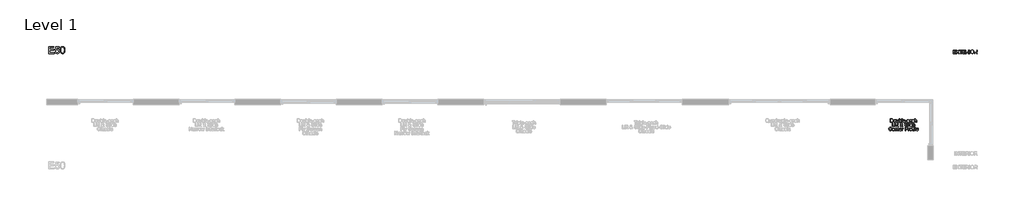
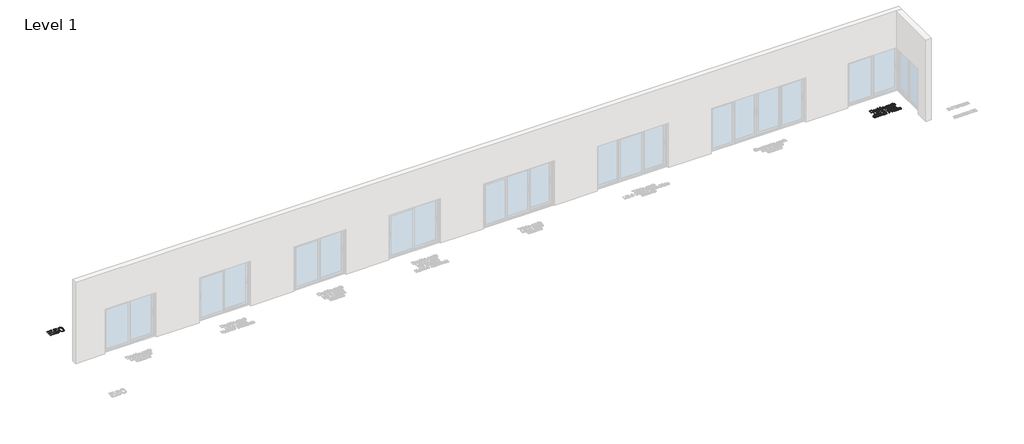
# One storey, part 17 of 17: 3 proxies.
"""IFC4 building model written with IfcOpenShell, lengths in millimetres."""

from ifc_helpers import new_model, si_unit, origin, origin_with_axes, place, context, project, spatial, polyline, outline, extrude, element, save

model = new_model("IFC4")

# Units and contexts
model_context = context("Model", 3, world=origin())
ifc_project = project(units=[si_unit("LENGTHUNIT", "METRE", prefix="MILLI")], contexts=[model_context])

# Site, building, storey
site = spatial("IfcSite", under=ifc_project)
building = spatial("IfcBuilding", under=site)
storey = spatial("IfcBuildingStorey", under=building, Name="Level 1", Elevation=0.0)

# Proxies
placement = place(None, origin())
element("IfcBuildingElementProxy", 1, Name="150mm Arial", ObjectType="150mm Arial", at=placement, inside=storey, context=model_context, shape_type="SweptSolid", body=[
    extrude(outline(polyline([(31115.5972472, 2081.2868462), (31115.5972472, 2231.9713114), (31223.9017066, 2231.9713114), (31223.9017066, 2213.1357532), (31134.4328053, 2213.1357532), (31134.4328053, 2168.4013026), (31219.192817, 2168.4013026), (31219.192817, 2149.5657445), (31134.4328053, 2149.5657445), (31134.4328053, 2100.1224043), (31226.2561513, 2100.1224043), (31226.2561513, 2081.2868462), (31115.5972472, 2081.2868462)])), origin_with_axes(), (0.0, 0.0, 1.0), 10.0),
    extrude(outline(polyline([(31238.0283752, 2081.2868462), (31296.1169422, 2163.3981075), (31247.4461543, 2231.9713114), (31270.0341088, 2231.9713114), (31297.4413174, 2193.3804901), (31306.6751555, 2178.3341165), (31317.4908861, 2193.6380075), (31344.6037892, 2231.9713114), (31367.5228375, 2231.9713114), (31318.8520495, 2163.1773783), (31376.9406166, 2081.2868462), (31354.3526621, 2081.2868462), (31315.6514762, 2135.8805342), (31307.5948605, 2147.2112997), (31298.7289044, 2134.7768883), (31260.9474235, 2081.2868462), (31238.0283752, 2081.2868462)])), origin_with_axes(), (0.0, 0.0, 1.0), 10.0),
    extrude(outline(polyline([(31433.447291, 2081.2868462), (31433.447291, 2213.1357532), (31384.0039509, 2213.1357532), (31384.0039509, 2231.9713114), (31501.7261893, 2231.9713114), (31501.7261893, 2213.1357532), (31452.2828492, 2213.1357532), (31452.2828492, 2081.2868462), (31433.447291, 2081.2868462)])), origin_with_axes(), (0.0, 0.0, 1.0), 10.0),
    extrude(outline(polyline([(31522.9161922, 2081.2868462), (31522.9161922, 2231.9713114), (31631.2206516, 2231.9713114), (31631.2206516, 2213.1357532), (31541.7517504, 2213.1357532), (31541.7517504, 2168.4013026), (31626.5117621, 2168.4013026), (31626.5117621, 2149.5657445), (31541.7517504, 2149.5657445), (31541.7517504, 2100.1224043), (31633.5750964, 2100.1224043), (31633.5750964, 2081.2868462), (31522.9161922, 2081.2868462)])), origin_with_axes(), (0.0, 0.0, 1.0), 10.0),
    extrude(outline(polyline([(31661.8284336, 2081.2868462), (31661.8284336, 2231.9713114), (31726.7596058, 2231.9713114), (31756.9075353, 2227.9062153), (31766.1873586, 2222.2776208), (31773.3886487, 2213.5220293), (31778.0101662, 2202.6649119), (31779.5506721, 2190.7317397), (31776.9984907, 2175.8877012), (31769.3419467, 2163.5820485), (31756.3511138, 2154.5597425), (31737.7960656, 2149.5657445), (31748.5014317, 2141.5091288), (31763.7685345, 2122.1217476), (31788.8948748, 2081.2868462), (31767.005896, 2081.2868462), (31747.3977857, 2112.5200275), (31733.2343289, 2133.1949957), (31723.2831209, 2142.9622626), (31714.3251943, 2146.5491121), (31703.3990991, 2147.2112997), (31680.6639918, 2147.2112997), (31680.6639918, 2081.2868462), (31661.8284336, 2081.2868462)]), holes=[polyline([(31680.6639918, 2166.0468578), (31722.8232684, 2166.0468578), (31744.325971, 2168.7140023), (31756.5396533, 2177.2488646), (31760.7151139, 2190.0327639), (31758.7239526, 2199.2206168), (31752.7504687, 2206.6242419), (31742.4727655, 2211.5078754), (31727.5689462, 2213.1357532), (31680.6639918, 2213.1357532), (31680.6639918, 2166.0468578)])]), origin_with_axes(), (0.0, 0.0, 1.0), 10.0),
    extrude(outline(polyline([(31814.8673436, 2081.2868462), (31814.8673436, 2231.9713114), (31833.7029018, 2231.9713114), (31833.7029018, 2081.2868462), (31814.8673436, 2081.2868462)])), origin_with_axes(), (0.0, 0.0, 1.0), 10.0),
    extrude(outline(polyline([(31864.3106838, 2154.642516), (31869.332273, 2187.9634277), (31875.6092595, 2201.5819593), (31884.3970407, 2213.1725414), (31907.3988625, 2229.0374525), (31936.2316138, 2234.3257562), (31955.996074, 2231.8425527), (31973.7187891, 2224.3929423), (31988.4340689, 2212.5011568), (31999.1762232, 2196.691428), (32005.7429168, 2177.7271112), (32007.9318147, 2156.3715614), (32005.6279537, 2134.730903), (31998.7163707, 2115.4998717), (31987.5787433, 2099.6625518), (31972.5967491, 2088.2030277), (31955.0257853, 2081.250058), (31936.1212492, 2078.9324014), (31916.0532864, 2081.4937798), (31898.2294037, 2089.177915), (31883.5509121, 2101.2904296), (31872.9191225, 2117.1369466), (31866.4627934, 2135.370098), (31864.3106838, 2154.642516)]), holes=[polyline([(31883.1462419, 2154.458575), (31886.9124339, 2130.8865362), (31898.2110096, 2112.9246977), (31915.1933622, 2101.5571441), (31936.0108846, 2097.7679595), (31957.1319097, 2101.5939323), (31974.1418534, 2113.0718505), (31985.3576558, 2131.5855119), (31989.0962565, 2156.5187142), (31987.4959699, 2173.1929656), (31982.6951098, 2187.6047428), (31974.8178366, 2199.3907622), (31963.9883104, 2208.1877404), (31950.923901, 2213.6645836), (31936.3419784, 2215.490198), (31916.0808775, 2211.9723264), (31898.8548031, 2201.4187117), (31887.0733822, 2182.6429344), (31883.1462419, 2154.458575)])]), origin_with_axes(), (0.0, 0.0, 1.0), 10.0),
    extrude(outline(polyline([(32033.8307072, 2081.2868462), (32033.8307072, 2231.9713114), (32098.7618793, 2231.9713114), (32128.9098088, 2227.9062153), (32138.1896321, 2222.2776208), (32145.3909222, 2213.5220293), (32150.0124398, 2202.6649119), (32151.5529456, 2190.7317397), (32149.0007643, 2175.8877012), (32141.3442202, 2163.5820485), (32128.3533873, 2154.5597425), (32109.7983392, 2149.5657445), (32120.5037052, 2141.5091288), (32135.770808, 2122.1217476), (32160.8971483, 2081.2868462), (32139.0081696, 2081.2868462), (32119.4000592, 2112.5200275), (32105.2366024, 2133.1949957), (32095.2853944, 2142.9622626), (32086.3274679, 2146.5491121), (32075.4013726, 2147.2112997), (32052.6662653, 2147.2112997), (32052.6662653, 2081.2868462), (32033.8307072, 2081.2868462)]), holes=[polyline([(32052.6662653, 2166.0468578), (32094.825542, 2166.0468578), (32116.3282446, 2168.7140023), (32128.5419268, 2177.2488646), (32132.7173875, 2190.0327639), (32130.7262262, 2199.2206168), (32124.7527423, 2206.6242419), (32114.475039, 2211.5078754), (32099.5712197, 2213.1357532), (32052.6662653, 2213.1357532), (32052.6662653, 2166.0468578)])]), origin_with_axes(), (0.0, 0.0, 1.0), 10.0),
])
element("IfcBuildingElementProxy", 2, Name="150mm Arial", ObjectType="150mm Arial", at=placement, inside=storey, context=model_context, shape_type="SweptSolid", body=[
    extrude(outline(polyline([(28388.4817855, -897.6627533), (28388.4817855, -746.9782881), (28440.4635114, -746.9782881), (28467.3556853, -749.1487919), (28489.5021814, -759.9277343), (28499.9224389, -771.4056526), (28507.3444582, -785.679474), (28511.7866333, -802.4732871), (28513.2673583, -821.5111803), (28509.2574445, -851.9166272), (28498.9567487, -873.8607883), (28485.1979621, -887.5276044), (28467.1901384, -895.0875794), (28442.965109, -897.6627533), (28388.4817855, -897.6627533)]), holes=[polyline([(28407.3173437, -878.8271952), (28440.6474524, -878.8271952), (28464.8908759, -876.1048684), (28478.8703917, -868.4161347), (28490.3299159, -849.7093353), (28494.4318001, -821.2168747), (28492.4222447, -800.6890594), (28486.3935785, -785.5323212), (28477.4862357, -775.1212607), (28466.8406505, -768.8304786), (28440.1324176, -765.8138463), (28407.3173437, -765.8138463), (28407.3173437, -878.8271952)])]), origin_with_axes(), (0.0, 0.0, 1.0), 10.0),
    extrude(outline(polyline([(28532.1029164, -842.3333013), (28536.1772095, -815.6526596), (28548.4000888, -796.8998749), (28563.5016447, -787.712022), (28581.5830448, -784.6494044), (28601.3704976, -788.3788081), (28617.1756278, -799.5670193), (28627.5361045, -817.3311212), (28630.9895967, -840.7881969), (28629.4628865, -859.8168931), (28624.8827556, -874.3022466), (28617.3825614, -885.150167), (28607.0956612, -893.2665635), (28594.8773804, -898.3295395), (28581.5830448, -900.0171981), (28561.5564687, -896.30159), (28545.7697326, -885.1547655), (28535.5196205, -867.0181831), (28532.1029164, -842.3333013)]), holes=[polyline([(28550.9384746, -842.2965131), (28553.1181754, -859.343245), (28559.6572779, -871.4879494), (28569.4981212, -878.7582173), (28581.5830448, -881.18164), (28593.612786, -878.7444217), (28603.4352353, -871.4327671), (28609.9743378, -859.1271143), (28612.1540386, -841.7079019), (28609.9605422, -825.1578106), (28603.380053, -813.1786531), (28593.5438082, -805.9083852), (28581.5830448, -803.4849626), (28569.4981212, -805.8991882), (28559.6572779, -813.141865), (28553.1181754, -825.2589782), (28550.9384746, -842.2965131)])]), origin_with_axes(), (0.0, 0.0, 1.0), 10.0),
    extrude(outline(polyline([(28722.8129427, -897.6627533), (28722.8129427, -878.6432542), (28708.0608747, -894.6737121), (28688.8206464, -900.0171981), (28671.1071283, -896.2648018), (28658.8934461, -886.8470227), (28653.2832457, -872.9778715), (28652.1795997, -855.4666885), (28652.1795997, -787.0038492), (28671.0151578, -787.0038492), (28671.0151578, -846.6007324), (28672.155592, -865.8041726), (28679.6052024, -877.0797557), (28693.6399005, -881.18164), (28709.3668558, -876.9877852), (28719.7595222, -865.5650493), (28722.8129427, -844.5773814), (28722.8129427, -787.0038492), (28741.6485009, -787.0038492), (28741.6485009, -897.6627533), (28722.8129427, -897.6627533)])), origin_with_axes(), (0.0, 0.0, 1.0), 10.0),
    extrude(outline(polyline([(28786.3829515, -897.6627533), (28767.5473934, -897.6627533), (28767.5473934, -746.9782881), (28786.3829515, -746.9782881), (28786.3829515, -802.8595632), (28799.571521, -789.2019441), (28815.9606639, -784.6494044), (28834.8330103, -788.7512887), (28849.4747137, -800.2843892), (28858.4694285, -818.2186365), (28861.7251841, -840.6778323), (28858.3544653, -865.8225667), (28848.242309, -884.5293661), (28833.402869, -896.1452401), (28815.8502993, -900.0171981), (28799.1024715, -895.0232), (28786.3829515, -880.0412058), (28786.3829515, -897.6627533)]), holes=[polyline([(28786.3829515, -841.5607491), (28787.6705385, -857.2693103), (28791.5332994, -867.9010999), (28801.401734, -877.861505), (28814.2316185, -881.18164), (28825.1025315, -878.7352247), (28834.3915519, -871.3959789), (28840.7651074, -859.2098878), (28842.889626, -842.2229367), (28840.8524794, -824.9876652), (28834.7410398, -812.9395299), (28825.7417265, -805.8486044), (28815.0409589, -803.4849626), (28804.170046, -805.9313778), (28794.8810256, -813.2706236), (28788.50747, -825.2359855), (28786.3829515, -841.5607491)])]), origin_with_axes(), (0.0, 0.0, 1.0), 10.0),
    extrude(outline(polyline([(28882.915187, -897.6627533), (28882.915187, -746.9782881), (28901.7507452, -746.9782881), (28901.7507452, -897.6627533), (28882.915187, -897.6627533)])), origin_with_axes(), (0.0, 0.0, 1.0), 10.0),
    extrude(outline(polyline([(29007.4800306, -864.7005266), (29025.9477068, -867.0549713), (29019.2936412, -880.9701078), (29008.6756471, -891.3719712), (28994.3328478, -897.8558914), (28976.5043666, -900.0171981), (28954.4038558, -896.2877944), (28937.3985105, -885.0995832), (28926.5551887, -867.1791315), (28922.9407481, -843.2530063), (28926.5919769, -818.5221391), (28937.5456633, -800.0268718), (28954.3210823, -788.4937713), (28975.4375088, -784.6494044), (28995.8963463, -788.4845742), (29012.2441024, -799.9900836), (29022.9632641, -818.4485627), (29026.536318, -843.1426417), (29026.4259534, -848.2194132), (28941.7763063, -848.2194132), (28945.0366605, -862.3184907), (28952.610431, -872.6835659), (28963.5411248, -879.0571214), (28976.8722486, -881.18164), (28995.3399248, -877.2453026), (29007.4800306, -864.7005266)]), holes=[polyline([(28941.7763063, -829.383855), (29007.7007598, -829.383855), (29005.153177, -819.4326471), (29000.1591789, -812.3141305), (28989.1779013, -805.6922545), (28975.3639324, -803.4849626), (28962.6674051, -805.2461976), (28952.1689726, -810.5299028), (28944.8711136, -818.765861), (28941.7763063, -829.383855)])]), origin_with_axes(), (0.0, 0.0, 1.0), 10.0),
    extrude(outline(polyline([(29035.954097, -852.9283027), (29035.954097, -834.0927446), (29094.8152163, -834.0927446), (29094.8152163, -852.9283027), (29035.954097, -852.9283027)])), origin_with_axes(), (0.0, 0.0, 1.0), 10.0),
    extrude(outline(polyline([(29108.9418849, -864.7005266), (29127.777443, -862.3460818), (29130.7480901, -870.4026975), (29136.4962463, -876.3255976), (29156.4722387, -881.18164), (29175.6756788, -876.7302678), (29181.9296727, -866.2824192), (29180.3569772, -861.4815591), (29175.6388906, -857.8211333), (29156.2515095, -852.4500561), (29127.8878076, -843.2346122), (29115.5085785, -832.4740638), (29111.2963296, -817.2805374), (29114.680844, -803.2458393), (29123.9146821, -792.5220791), (29135.889241, -786.9486669), (29152.0944429, -784.6494044), (29175.0134912, -788.3466185), (29189.5816182, -798.3530087), (29196.0563413, -815.2571864), (29177.2207832, -817.6116312), (29170.1390548, -807.2189648), (29153.5659709, -803.4849626), (29135.5397531, -807.0534179), (29130.1318878, -815.367551), (29132.375968, -820.8489927), (29139.4025141, -825.0060593), (29155.6261101, -829.015973), (29183.272442, -837.8819291), (29196.1115236, -847.9251076), (29200.7652309, -864.2958564), (29195.3021832, -882.3220741), (29179.5384398, -895.4002791), (29156.2147213, -900.0171981), (29137.2228133, -897.791512), (29123.3628591, -891.1144538), (29114.1106269, -880.0595999), (29108.9418849, -864.7005266)])), origin_with_axes(), (0.0, 0.0, 1.0), 10.0),
    extrude(outline(polyline([(29292.5885769, -883.5360847), (29274.3232358, -896.30159), (29254.1449084, -900.0171981), (29238.4041575, -897.782315), (29226.792882, -891.0776656), (29219.6329787, -880.8965314), (29217.2463443, -868.2321937), (29220.8515878, -853.3329729), (29230.3245492, -842.5172423), (29243.5131187, -836.3368247), (29259.8102911, -833.5041334), (29292.4782123, -827.0294103), (29292.5885769, -822.8355555), (29291.2917928, -814.4294519), (29287.4014407, -808.9296161), (29278.7010316, -804.846126), (29266.5793198, -803.4849626), (29247.5230325, -807.1086002), (29238.4363472, -819.966076), (29219.600789, -817.6116312), (29227.7493752, -799.2175314), (29244.1569122, -788.438589), (29269.007341, -784.6494044), (29291.8344188, -787.9971306), (29304.7286827, -796.4032342), (29310.50443, -809.1871335), (29311.424135, -825.6682469), (29311.424135, -849.10233), (29312.3806282, -881.8254334), (29316.1330246, -897.6627533), (29297.2974664, -897.6627533), (29292.5885769, -883.5360847)]), holes=[polyline([(29292.5885769, -845.8649684), (29262.2015241, -851.6407157), (29245.9963222, -854.6941363), (29238.6570764, -859.6605432), (29236.0819024, -866.9078185), (29241.6921028, -877.0981498), (29258.1548221, -881.18164), (29277.2111095, -876.6750855), (29289.4983681, -865.7673844), (29292.4782123, -851.1992574), (29292.5885769, -845.8649684)])]), origin_with_axes(), (0.0, 0.0, 1.0), 10.0),
    extrude(outline(polyline([(29330.2596932, -864.7005266), (29349.0952513, -862.3460818), (29352.0658984, -870.4026975), (29357.8140546, -876.3255976), (29377.790047, -881.18164), (29396.9934871, -876.7302678), (29403.247481, -866.2824192), (29401.6747855, -861.4815591), (29396.9566989, -857.8211333), (29377.5693178, -852.4500561), (29349.2056159, -843.2346122), (29336.8263868, -832.4740638), (29332.6141379, -817.2805374), (29335.9986523, -803.2458393), (29345.2324904, -792.5220791), (29357.2070493, -786.9486669), (29373.4122512, -784.6494044), (29396.3312995, -788.3466185), (29410.8994265, -798.3530087), (29417.3741496, -815.2571864), (29398.5385915, -817.6116312), (29391.4568631, -807.2189648), (29374.8837792, -803.4849626), (29356.8575614, -807.0534179), (29351.4496961, -815.367551), (29353.6937763, -820.8489927), (29360.7203224, -825.0060593), (29376.9439184, -829.015973), (29404.5902503, -837.8819291), (29417.4293319, -847.9251076), (29422.0830392, -864.2958564), (29416.6199915, -882.3220741), (29400.856248, -895.4002791), (29377.5325296, -900.0171981), (29358.5406216, -897.791512), (29344.6806674, -891.1144538), (29335.4284352, -880.0595999), (29330.2596932, -864.7005266)])), origin_with_axes(), (0.0, 0.0, 1.0), 10.0),
    extrude(outline(polyline([(29443.2730421, -897.6627533), (29443.2730421, -746.9782881), (29462.1086002, -746.9782881), (29462.1086002, -802.3813166), (29476.7962889, -789.0823825), (29494.886886, -784.6494044), (29516.0401007, -789.4870527), (29528.8791824, -802.8595632), (29532.7419433, -827.6180215), (29532.7419433, -897.6627533), (29513.9063852, -897.6627533), (29513.9063852, -829.567796), (29512.407266, -817.7771781), (29507.9099086, -809.7021683), (29500.6626333, -805.039264), (29490.9137605, -803.4849626), (29475.4811108, -807.6788173), (29465.1804149, -819.046371), (29462.1086002, -838.8752105), (29462.1086002, -897.6627533), (29443.2730421, -897.6627533)])), origin_with_axes(), (0.0, 0.0, 1.0), 10.0),
    extrude(outline(polyline([(28473.2417972, -1080.6249801), (28473.2417972, -929.9405149), (28492.0773554, -929.9405149), (28492.0773554, -1061.789422), (28567.419588, -1061.789422), (28567.419588, -1080.6249801), (28473.2417972, -1080.6249801)])), origin_with_axes(), (0.0, 0.0, 1.0), 10.0),
    extrude(outline(polyline([(28586.2551461, -948.776073), (28586.2551461, -929.9405149), (28605.0907043, -929.9405149), (28605.0907043, -948.776073), (28586.2551461, -948.776073)])), origin_with_axes(), (0.0, 0.0, 1.0), 10.0),
    extrude(outline(polyline([(28586.2551461, -1080.6249801), (28586.2551461, -969.966076), (28605.0907043, -969.966076), (28605.0907043, -1080.6249801), (28586.2551461, -1080.6249801)])), origin_with_axes(), (0.0, 0.0, 1.0), 10.0),
    extrude(outline(polyline([(28638.0529311, -1080.6249801), (28638.0529311, -988.8016341), (28621.5718177, -988.8016341), (28621.5718177, -969.966076), (28638.0529311, -969.966076), (28638.0529311, -958.8192515), (28640.0394938, -943.1106903), (28649.6780021, -931.8902895), (28668.660713, -927.5860701), (28685.8408022, -929.6462093), (28683.0816873, -947.3045451), (28672.2291684, -946.4216283), (28660.3649741, -949.5486252), (28656.8884892, -961.2104845), (28656.8884892, -969.966076), (28678.0784921, -969.966076), (28678.0784921, -988.8016341), (28656.8884892, -988.8016341), (28656.8884892, -1080.6249801), (28638.0529311, -1080.6249801)])), origin_with_axes(), (0.0, 0.0, 1.0), 10.0),
    extrude(outline(polyline([(28734.5851666, -1064.9164189), (28736.9396114, -1081.1768031), (28722.8497309, -1082.9794249), (28707.0675933, -1079.8524279), (28699.1949186, -1071.6486594), (28696.9140503, -1050.2747155), (28696.9140503, -988.8016341), (28682.7873817, -988.8016341), (28682.7873817, -969.966076), (28696.9140503, -969.966076), (28696.9140503, -943.0739021), (28715.7496084, -932.0006541), (28715.7496084, -969.966076), (28734.5851666, -969.966076), (28734.5851666, -988.8016341), (28715.7496084, -988.8016341), (28715.7496084, -1049.7228925), (28716.7428898, -1059.4349772), (28719.9618573, -1062.8746738), (28726.3813981, -1064.1438667), (28734.5851666, -1064.9164189)])), origin_with_axes(), (0.0, 0.0, 1.0), 10.0),
    extrude(outline(polyline([(28898.6973246, -1062.0101512), (28878.7213323, -1077.7371064), (28855.3608256, -1082.9794249), (28834.5754929, -1079.0982698), (28818.5726261, -1067.4548047), (28810.3228723, -1054.054703), (28807.5729544, -1039.1646793), (28809.7848449, -1025.9669127), (28816.4205164, -1014.1119154), (28827.4523777, -1003.6088844), (28842.8528378, -994.4670168), (28829.7010564, -975.4107295), (28826.4085126, -961.2840609), (28829.0020806, -948.5645409), (28836.7827848, -937.6292486), (28848.4906293, -930.0968647), (28862.8656183, -927.5860701), (28876.5416315, -929.9865001), (28887.4769238, -937.1877902), (28894.6506227, -947.7552005), (28897.0418557, -960.2539913), (28895.2714236, -970.7478252), (28889.9601272, -980.4507128), (28868.714942, -997.4836492), (28895.9749979, -1031.4391574), (28904.10519, -1010.5802482), (28922.9407481, -1014.6637384), (28909.6234199, -1045.6761906), (28932.3585272, -1068.4848743), (28918.2318586, -1082.9794249), (28898.6973246, -1062.0101512)]), holes=[polyline([(28859.1867984, -985.6010608), (28874.6746303, -973.9208074), (28878.2062975, -962.8291653), (28873.5525903, -951.0017591), (28861.9091251, -946.4216283), (28850.0081426, -950.9649709), (28845.2440707, -962.0566131), (28846.8627515, -968.9544005), (28851.755582, -976.6247401), (28859.1867984, -985.6010608)]), polyline([(28886.0789722, -1048.4353055), (28852.4545578, -1006.4599699), (28831.7611956, -1022.2421075), (28826.4085126, -1036.6630817), (28828.2387255, -1045.5474319), (28833.7293643, -1054.7628758), (28842.5769263, -1061.798619), (28854.4779088, -1064.1438667), (28871.7867567, -1059.766071), (28886.0789722, -1048.4353055)])]), origin_with_axes(), (0.0, 0.0, 1.0), 10.0),
    extrude(outline(polyline([(29005.346315, -1028.8271952), (29024.1818732, -1028.8271952), (29030.2519261, -1047.6811474), (29045.0775705, -1059.6005241), (29067.665525, -1064.1438667), (29087.3472118, -1060.7041701), (29100.0575347, -1051.2496028), (29104.2329953, -1038.6128563), (29101.1059984, -1026.8590265), (29088.3037049, -1018.3057701), (29060.8781022, -1011.1136771), (29031.3555721, -1001.8246567), (29015.3343112, -987.8083527), (29010.0552046, -969.0831592), (29011.6876809, -958.0512978), (29016.58511, -947.7643976), (29024.6187331, -939.0455943), (29035.6597914, -932.7180239), (29063.5820349, -927.5860701), (29093.3804765, -932.9571472), (29104.8032124, -939.5882202), (29113.2461042, -948.7392848), (29118.5895902, -959.840124), (29120.7141087, -972.3205207), (29101.8785506, -972.3205207), (29098.4204598, -961.0817258), (29091.2099727, -952.9699278), (29079.9435866, -948.0587031), (29064.3177989, -946.4216283), (29048.3241291, -948.040309), (29037.3520486, -952.8963514), (29031.0060842, -960.0424591), (29028.8907627, -968.5313362), (29030.3898819, -975.7694144), (29034.8872392, -981.591147), (29065.642174, -992.1125721), (29098.9722828, -1001.5671393), (29109.7098385, -1008.4005474), (29117.2008357, -1016.8342421), (29121.601624, -1026.7762531), (29123.0685535, -1038.1346097), (29121.3808948, -1049.7458851), (29116.3179189, -1060.6673819), (29108.0865592, -1070.0667668), (29096.8937495, -1077.1117071), (29083.433867, -1081.5124954), (29068.401289, -1082.9794249), (29049.9474084, -1081.3975323), (29034.7584805, -1076.6518546), (29022.6597614, -1068.7239976), (29013.4765071, -1057.5955672), (29007.5811982, -1044.0391157), (29005.346315, -1028.8271952)])), origin_with_axes(), (0.0, 0.0, 1.0), 10.0),
    extrude(outline(polyline([(29148.967446, -1080.6249801), (29148.967446, -929.9405149), (29167.8030041, -929.9405149), (29167.8030041, -1080.6249801), (29148.967446, -1080.6249801)])), origin_with_axes(), (0.0, 0.0, 1.0), 10.0),
    extrude(outline(polyline([(29196.0563413, -948.776073), (29196.0563413, -929.9405149), (29214.8918995, -929.9405149), (29214.8918995, -948.776073), (29196.0563413, -948.776073)])), origin_with_axes(), (0.0, 0.0, 1.0), 10.0),
    extrude(outline(polyline([(29196.0563413, -1080.6249801), (29196.0563413, -969.966076), (29214.8918995, -969.966076), (29214.8918995, -1080.6249801), (29196.0563413, -1080.6249801)])), origin_with_axes(), (0.0, 0.0, 1.0), 10.0),
    extrude(outline(polyline([(29311.424135, -1080.6249801), (29311.424135, -1062.8562797), (29298.9621324, -1077.9486386), (29281.736058, -1082.9794249), (29269.559164, -1081.158409), (29258.4123395, -1075.6953614), (29248.9761663, -1066.9719596), (29241.9312261, -1055.3698811), (29237.5442333, -1041.3581756), (29236.0819024, -1025.4058926), (29241.4713736, -995.42351), (29248.2036142, -983.5317245), (29257.6213932, -974.7853301), (29269.0119395, -969.4050559), (29281.6624816, -967.6116312), (29299.0265118, -972.743585), (29311.424135, -986.0793073), (29311.424135, -929.9405149), (29330.2596932, -929.9405149), (29330.2596932, -1080.6249801), (29311.424135, -1080.6249801)]), holes=[polyline([(29254.9174606, -1025.3323162), (29257.0419791, -1042.3698511), (29263.4155347, -1054.4869644), (29272.6769639, -1061.7296411), (29283.4651034, -1064.1438667), (29294.2486444, -1061.8400057), (29303.2755488, -1054.9284227), (29309.3869885, -1043.2803591), (29311.424135, -1026.767056), (29309.3502003, -1008.7132471), (29303.128396, -996.1960622), (29293.8715653, -988.8844076), (29282.6925512, -986.4471893), (29271.7940471, -988.7878385), (29262.8637117, -995.8097861), (29256.9040233, -1007.871717), (29254.9174606, -1025.3323162)])]), origin_with_axes(), (0.0, 0.0, 1.0), 10.0),
    extrude(outline(polyline([(29435.9889786, -1047.6627533), (29454.4566547, -1050.0171981), (29447.8025892, -1063.9323346), (29437.1845951, -1074.334198), (29422.8417958, -1080.8181182), (29405.0133146, -1082.9794249), (29382.9128037, -1079.2500212), (29365.9074585, -1068.06181), (29355.0641367, -1050.1413583), (29351.4496961, -1026.215233), (29355.1009249, -1001.4843659), (29366.0546113, -982.9890986), (29382.8300303, -971.455998), (29403.9464568, -967.6116312), (29424.4052943, -971.446801), (29440.7530504, -982.9523104), (29451.4722121, -1001.4107895), (29455.0452659, -1026.1048684), (29454.9349013, -1031.18164), (29370.2852543, -1031.18164), (29373.5456084, -1045.2807174), (29381.119379, -1055.6457926), (29392.0500728, -1062.0193482), (29405.3811966, -1064.1438667), (29423.8488727, -1060.2075294), (29435.9889786, -1047.6627533)]), holes=[polyline([(29370.2852543, -1012.3460818), (29436.2097078, -1012.3460818), (29433.662125, -1002.3948738), (29428.6681269, -995.2763572), (29417.6868493, -988.6544813), (29403.8728804, -986.4471893), (29391.1763531, -988.2084244), (29380.6779206, -993.4921296), (29373.3800615, -1001.7280877), (29370.2852543, -1012.3460818)])]), origin_with_axes(), (0.0, 0.0, 1.0), 10.0),
    extrude(outline(polyline([(28434.3934585, -1210.0235884), (28453.2290167, -1214.8796307), (28444.5378045, -1236.8283903), (28430.8985796, -1252.8634467), (28412.9827264, -1262.6721004), (28391.4616297, -1265.9416516), (28369.6140377, -1263.4676452), (28352.2638031, -1256.045626), (28338.964869, -1243.9331113), (28329.2711784, -1227.3876186), (28323.3528768, -1207.9358581), (28321.3801096, -1187.1045401), (28323.6103942, -1165.1327879), (28330.301248, -1146.159274), (28341.1031831, -1130.7864051), (28355.6667116, -1119.6165881), (28372.9387712, -1112.8153697), (28391.8662999, -1110.5482969), (28412.5182754, -1113.4821558), (28429.5925985, -1122.2837325), (28442.5558403, -1136.4104011), (28450.8745719, -1155.3195357), (28432.0390138, -1159.807696), (28425.5091083, -1146.071902), (28416.58797, -1136.6495244), (28405.165234, -1131.2002724), (28391.1305359, -1129.383855), (28374.9529251, -1131.398009), (28361.6631881, -1137.4404707), (28351.5786229, -1146.8766439), (28345.0165278, -1159.071932), (28340.2156678, -1187.0677519), (28341.636612, -1204.4685703), (28345.8994446, -1219.5149439), (28353.165114, -1231.6320571), (28363.5945685, -1240.2450943), (28376.0979579, -1245.3908437), (28389.5854315, -1247.1060935), (28405.3077883, -1244.7700428), (28418.4089858, -1237.7618908), (28428.300413, -1226.1552139), (28434.3934585, -1210.0235884)])), origin_with_axes(), (0.0, 0.0, 1.0), 10.0),
    extrude(outline(polyline([(28472.0645748, -1208.2577548), (28476.1388679, -1181.5771131), (28488.3617472, -1162.8243284), (28503.4633031, -1153.6364756), (28521.5447032, -1150.573858), (28541.332156, -1154.3032617), (28557.1372862, -1165.4914729), (28567.4977629, -1183.2555747), (28570.9512551, -1206.7126504), (28569.4245449, -1225.7413466), (28564.844414, -1240.2267002), (28557.3442198, -1251.0746205), (28547.0573195, -1259.191017), (28534.8390388, -1264.253993), (28521.5447032, -1265.9416516), (28501.5181271, -1262.2260435), (28485.7313909, -1251.079219), (28475.4812789, -1232.9426367), (28472.0645748, -1208.2577548)]), holes=[polyline([(28490.900133, -1208.2209666), (28493.0798338, -1225.2676986), (28499.6189363, -1237.4124029), (28509.4597796, -1244.6826709), (28521.5447032, -1247.1060935), (28533.5744444, -1244.6688753), (28543.3968937, -1237.3572206), (28549.9359962, -1225.0515679), (28552.115697, -1207.6323554), (28549.9222006, -1191.0822642), (28543.3417114, -1179.1031067), (28533.5054665, -1171.8328388), (28521.5447032, -1169.4094161), (28509.4597796, -1171.8236417), (28499.6189363, -1179.0663185), (28493.0798338, -1191.1834317), (28490.900133, -1208.2209666)])]), origin_with_axes(), (0.0, 0.0, 1.0), 10.0),
    extrude(outline(polyline([(28592.1412581, -1263.5872069), (28592.1412581, -1152.9283027), (28608.6223714, -1152.9283027), (28608.6223714, -1169.2990515), (28620.3210189, -1154.2158897), (28632.0932427, -1150.573858), (28651.0023773, -1156.3863935), (28644.7115952, -1173.2721771), (28631.4678433, -1169.4094161), (28620.8176596, -1173.1250243), (28614.0302368, -1183.4257201), (28610.9768162, -1205.4250634), (28610.9768162, -1263.5872069), (28592.1412581, -1263.5872069)])), origin_with_axes(), (0.0, 0.0, 1.0), 10.0),
    extrude(outline(polyline([(28662.7746011, -1263.5872069), (28662.7746011, -1152.9283027), (28681.6101593, -1152.9283027), (28681.6101593, -1168.3793465), (28696.0127394, -1155.0252301), (28715.676032, -1150.573858), (28733.4631265, -1154.1607074), (28745.6032323, -1163.5784865), (28751.250221, -1177.4292436), (28752.2435024, -1195.6394024), (28752.2435024, -1263.5872069), (28733.4079442, -1263.5872069), (28733.4079442, -1198.1777881), (28731.2374404, -1181.5127338), (28723.5671008, -1172.70196), (28710.6360487, -1169.4094161), (28699.6041874, -1171.2580231), (28690.2002039, -1176.8038442), (28683.7576704, -1187.5184073), (28681.6101593, -1204.8732404), (28681.6101593, -1263.5872069), (28662.7746011, -1263.5872069)])), origin_with_axes(), (0.0, 0.0, 1.0), 10.0),
    extrude(outline(polyline([(28855.618343, -1230.6249801), (28874.0860192, -1232.9794249), (28867.4319536, -1246.8945613), (28856.8139595, -1257.2964248), (28842.4711602, -1263.7803449), (28824.642679, -1265.9416516), (28802.5421681, -1262.2122479), (28785.5368229, -1251.0240367), (28774.6935011, -1233.1035851), (28771.0790605, -1209.1774598), (28774.7302893, -1184.4465927), (28785.6839757, -1165.9513254), (28802.4593947, -1154.4182248), (28823.5758212, -1150.573858), (28844.0346587, -1154.4090278), (28860.3824148, -1165.9145372), (28871.1015765, -1184.3730163), (28874.6746303, -1209.0670952), (28874.5642657, -1214.1438667), (28789.9146187, -1214.1438667), (28793.1749728, -1228.2429442), (28800.7487434, -1238.6080194), (28811.6794372, -1244.981575), (28825.010561, -1247.1060935), (28843.4782372, -1243.1697561), (28855.618343, -1230.6249801)]), holes=[polyline([(28789.9146187, -1195.3083086), (28855.8390722, -1195.3083086), (28853.2914894, -1185.3571006), (28848.2974913, -1178.238584), (28837.3162137, -1171.6167081), (28823.5022448, -1169.4094161), (28810.8057175, -1171.1706512), (28800.307285, -1176.4543563), (28793.0094259, -1184.6903145), (28789.9146187, -1195.3083086)])]), origin_with_axes(), (0.0, 0.0, 1.0), 10.0),
    extrude(outline(polyline([(28893.5101885, -1263.5872069), (28893.5101885, -1152.9283027), (28909.9913019, -1152.9283027), (28909.9913019, -1169.2990515), (28921.6899493, -1154.2158897), (28933.4621732, -1150.573858), (28952.3713077, -1156.3863935), (28946.0805256, -1173.2721771), (28932.8367738, -1169.4094161), (28922.18659, -1173.1250243), (28915.3991672, -1183.4257201), (28912.3457467, -1205.4250634), (28912.3457467, -1263.5872069), (28893.5101885, -1263.5872069)])), origin_with_axes(), (0.0, 0.0, 1.0), 10.0),
    extrude(outline(polyline([(29025.3590956, -1263.5872069), (29025.3590956, -1112.9027417), (29081.2035824, -1112.9027417), (29103.7179605, -1114.3374814), (29122.0200898, -1121.3824216), (29133.8842841, -1135.9505487), (29138.3724445, -1156.4967581), (29135.3420166, -1174.2562614), (29126.2507327, -1189.0543147), (29109.249986, -1199.0423108), (29082.4911694, -1202.3716429), (29044.1946537, -1202.3716429), (29044.1946537, -1263.5872069), (29025.3590956, -1263.5872069)]), holes=[polyline([(29044.1946537, -1183.5360847), (29083.5948154, -1183.5360847), (29100.296658, -1181.8070393), (29111.3331178, -1176.6199032), (29117.4859442, -1168.2965731), (29119.5368863, -1157.1589457), (29114.6992381, -1141.5607491), (29101.9889152, -1133.0258868), (29083.153357, -1131.7382998), (29044.1946537, -1131.7382998), (29044.1946537, -1183.5360847)])]), origin_with_axes(), (0.0, 0.0, 1.0), 10.0),
    extrude(outline(polyline([(29161.9168922, -1263.5872069), (29161.9168922, -1152.9283027), (29178.3980056, -1152.9283027), (29178.3980056, -1169.2990515), (29190.096653, -1154.2158897), (29201.8688769, -1150.573858), (29220.7780114, -1156.3863935), (29214.4872293, -1173.2721771), (29201.2434775, -1169.4094161), (29190.5932937, -1173.1250243), (29183.8058709, -1183.4257201), (29180.7524503, -1205.4250634), (29180.7524503, -1263.5872069), (29161.9168922, -1263.5872069)])), origin_with_axes(), (0.0, 0.0, 1.0), 10.0),
    extrude(outline(polyline([(29227.8413457, -1208.2577548), (29231.9156388, -1181.5771131), (29244.1385181, -1162.8243284), (29259.240074, -1153.6364756), (29277.3214741, -1150.573858), (29297.1089269, -1154.3032617), (29312.9140571, -1165.4914729), (29323.2745338, -1183.2555747), (29326.728026, -1206.7126504), (29325.2013157, -1225.7413466), (29320.6211849, -1240.2267002), (29313.1209907, -1251.0746205), (29302.8340904, -1259.191017), (29290.6158097, -1264.253993), (29277.3214741, -1265.9416516), (29257.294898, -1262.2260435), (29241.5081618, -1251.079219), (29231.2580497, -1232.9426367), (29227.8413457, -1208.2577548)]), holes=[polyline([(29246.6769039, -1208.2209666), (29248.8566047, -1225.2676986), (29255.3957072, -1237.4124029), (29265.2365505, -1244.6826709), (29277.3214741, -1247.1060935), (29289.3512153, -1244.6688753), (29299.1736646, -1237.3572206), (29305.712767, -1225.0515679), (29307.8924679, -1207.6323554), (29305.6989715, -1191.0822642), (29299.1184823, -1179.1031067), (29289.2822374, -1171.8328388), (29277.3214741, -1169.4094161), (29265.2365505, -1171.8236417), (29255.3957072, -1179.0663185), (29248.8566047, -1191.1834317), (29246.6769039, -1208.2209666)])]), origin_with_axes(), (0.0, 0.0, 1.0), 10.0),
    extrude(outline(polyline([(29352.6269185, -1263.5872069), (29352.6269185, -1171.7638609), (29336.1458051, -1171.7638609), (29336.1458051, -1152.9283027), (29352.6269185, -1152.9283027), (29352.6269185, -1141.7814783), (29354.6134813, -1126.0729171), (29364.2519895, -1114.8525162), (29383.2347005, -1110.5482969), (29400.4147897, -1112.6084361), (29397.6556747, -1130.2667718), (29386.8031558, -1129.383855), (29374.9389615, -1132.510852), (29371.4624766, -1144.1727112), (29371.4624766, -1152.9283027), (29392.6524796, -1152.9283027), (29392.6524796, -1171.7638609), (29371.4624766, -1171.7638609), (29371.4624766, -1263.5872069), (29352.6269185, -1263.5872069)])), origin_with_axes(), (0.0, 0.0, 1.0), 10.0),
    extrude(outline(polyline([(29409.1335929, -1131.7382998), (29409.1335929, -1112.9027417), (29427.9691511, -1112.9027417), (29427.9691511, -1131.7382998), (29409.1335929, -1131.7382998)])), origin_with_axes(), (0.0, 0.0, 1.0), 10.0),
    extrude(outline(polyline([(29409.1335929, -1263.5872069), (29409.1335929, -1152.9283027), (29427.9691511, -1152.9283027), (29427.9691511, -1263.5872069), (29409.1335929, -1263.5872069)])), origin_with_axes(), (0.0, 0.0, 1.0), 10.0),
    extrude(outline(polyline([(29456.2224883, -1263.5872069), (29456.2224883, -1112.9027417), (29475.0580465, -1112.9027417), (29475.0580465, -1263.5872069), (29456.2224883, -1263.5872069)])), origin_with_axes(), (0.0, 0.0, 1.0), 10.0),
    extrude(outline(polyline([(29580.7873319, -1230.6249801), (29599.255008, -1232.9794249), (29592.6009425, -1246.8945613), (29581.9829484, -1257.2964248), (29567.6401491, -1263.7803449), (29549.8116679, -1265.9416516), (29527.711157, -1262.2122479), (29510.7058118, -1251.0240367), (29499.86249, -1233.1035851), (29496.2480494, -1209.1774598), (29499.8992782, -1184.4465927), (29510.8529646, -1165.9513254), (29527.6283836, -1154.4182248), (29548.7448101, -1150.573858), (29569.2036476, -1154.4090278), (29585.5514037, -1165.9145372), (29596.2705654, -1184.3730163), (29599.8436192, -1209.0670952), (29599.7332546, -1214.1438667), (29515.0836076, -1214.1438667), (29518.3439617, -1228.2429442), (29525.9177323, -1238.6080194), (29536.8484261, -1244.981575), (29550.1795499, -1247.1060935), (29568.647226, -1243.1697561), (29580.7873319, -1230.6249801)]), holes=[polyline([(29515.0836076, -1195.3083086), (29581.0080611, -1195.3083086), (29578.4604783, -1185.3571006), (29573.4664802, -1178.238584), (29562.4852026, -1171.6167081), (29548.6712337, -1169.4094161), (29535.9747064, -1171.1706512), (29525.4762739, -1176.4543563), (29518.1784148, -1184.6903145), (29515.0836076, -1195.3083086)])]), origin_with_axes(), (0.0, 0.0, 1.0), 10.0),
])
element("IfcBuildingElementProxy", 3, Name="300mm Arial", ObjectType="300mm Arial", at=placement, inside=storey, context=model_context, shape_type="SweptSolid", body=[
    extrude(outline(polyline([(-8067.9216394, 2081.2868462), (-8067.9216394, 2382.6557766), (-7851.3127207, 2382.6557766), (-7851.3127207, 2344.9846603), (-8030.2505231, 2344.9846603), (-8030.2505231, 2255.5157591), (-7860.7304997, 2255.5157591), (-7860.7304997, 2217.8446428), (-8030.2505231, 2217.8446428), (-8030.2505231, 2118.9579625), (-7846.6038311, 2118.9579625), (-7846.6038311, 2081.2868462), (-8067.9216394, 2081.2868462)])), origin_with_axes(), (0.0, 0.0, 1.0), 10.0),
    extrude(outline(polyline([(-7804.2238253, 2161.3379683), (-7766.552709, 2166.0468578), (-7759.6365275, 2143.4313122), (-7747.569998, 2127.2353074), (-7730.408303, 2117.4956315), (-7708.2066245, 2114.2490729), (-7681.2040861, 2118.7648244), (-7660.9705764, 2132.3120789), (-7648.3338298, 2153.3273379), (-7644.121581, 2180.2471029), (-7648.0671154, 2205.5941723), (-7659.9037186, 2224.9815535), (-7679.7233611, 2237.2872062), (-7707.6180134, 2241.3890905), (-7725.8925515, 2239.7520156), (-7740.6906047, 2234.8407909), (-7761.8438194, 2217.8446428), (-7799.5149357, 2222.5535323), (-7766.552709, 2377.9468871), (-7620.5771333, 2377.9468871), (-7620.5771333, 2340.2757708), (-7736.0920798, 2340.2757708), (-7752.2053112, 2257.2815927), (-7725.2947432, 2273.6155532), (-7697.0965883, 2279.0602068), (-7678.750773, 2277.3725481), (-7661.8994784, 2272.3095722), (-7646.5427044, 2263.8712789), (-7632.6804509, 2252.0576683), (-7621.2048319, 2237.5907089), (-7613.0079612, 2221.1923689), (-7608.0898388, 2202.8626485), (-7606.4504647, 2182.6015476), (-7612.3549707, 2144.9304313), (-7619.7356032, 2128.1366182), (-7630.0684888, 2112.7039685), (-7645.7218677, 2096.8988383), (-7663.9872087, 2085.6094596), (-7684.8645119, 2078.8358324), (-7708.3537773, 2076.5779566), (-7745.353509, 2082.3812951), (-7761.0321798, 2089.6354682), (-7774.8300539, 2099.7913105), (-7786.3102714, 2112.3429843), (-7795.0359725, 2126.7846519), (-7804.2238253, 2161.3379683)])), origin_with_axes(), (0.0, 0.0, 1.0), 10.0),
    extrude(outline(polyline([(-7573.4882379, 2229.5432902), (-7570.7199259, 2277.7818168), (-7562.4149899, 2316.2530765), (-7548.6562032, 2345.5456803), (-7529.5263395, 2366.2482396), (-7504.8874429, 2378.5538924), (-7474.6015576, 2382.6557766), (-7451.3882037, 2380.2277554), (-7430.602871, 2372.9436919), (-7413.2204467, 2361.0886946), (-7400.2158182, 2344.9478721), (-7390.3933689, 2324.6591801), (-7382.5574824, 2300.3605743), (-7377.4255286, 2269.5044719), (-7375.7148773, 2229.5432902), (-7378.4555982, 2181.5806751), (-7386.6777608, 2143.2013859), (-7400.3537739, 2113.8811909), (-7419.4560465, 2093.0958582), (-7444.1501255, 2080.707432), (-7474.6015576, 2076.5779566), (-7495.3501021, 2078.3713813), (-7513.7442019, 2083.7516555), (-7529.7838569, 2092.7187792), (-7543.4690671, 2105.2727522), (-7556.6024543, 2127.9664728), (-7565.9834452, 2156.2428027), (-7571.6120397, 2190.1017418), (-7573.4882379, 2229.5432902)]), holes=[polyline([(-7535.8171216, 2229.6168666), (-7531.4025377, 2170.3602742), (-7525.8843077, 2150.0922756), (-7518.1587858, 2136.0644752), (-7498.4403109, 2119.7029235), (-7474.6015576, 2114.2490729), (-7450.7628043, 2119.7213176), (-7431.0443294, 2136.1380516), (-7423.3188075, 2150.1888446), (-7417.8005776, 2170.4522447), (-7413.3859936, 2229.6168666), (-7417.6534248, 2287.5398868), (-7422.9877137, 2307.7412068), (-7430.4557182, 2322.1024002), (-7450.1374049, 2339.2640953), (-7475.043016, 2344.9846603), (-7498.6242519, 2339.944677), (-7517.5701746, 2324.824727), (-7525.5532139, 2309.1897422), (-7531.2553849, 2288.1101038), (-7535.8171216, 2229.6168666)])]), origin_with_axes(), (0.0, 0.0, 1.0), 10.0),
])

save(model, "model.ifc")
